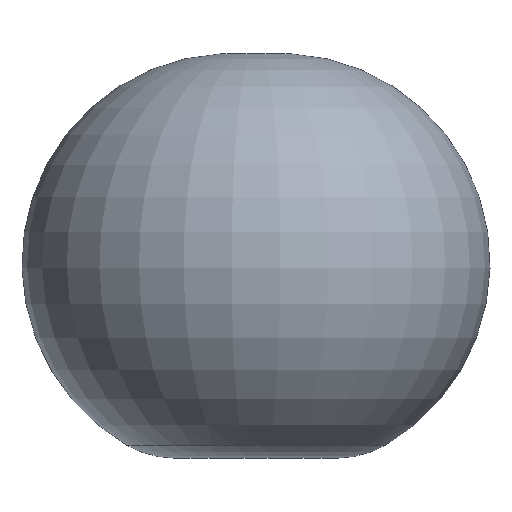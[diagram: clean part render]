
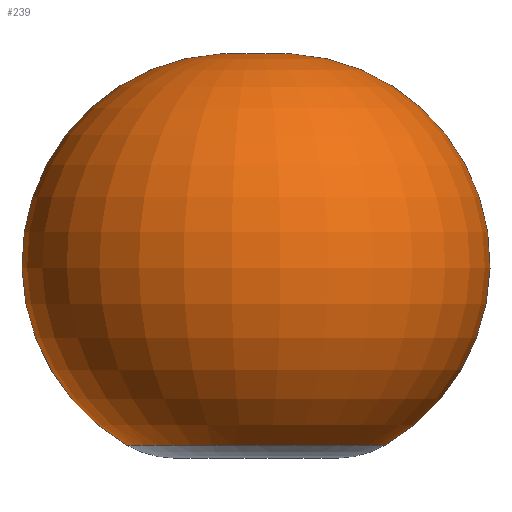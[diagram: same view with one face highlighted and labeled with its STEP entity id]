
A CAD part, front view. The second image highlights one B-rep face of the part: STEP entity #239.
In plain terms, the highlighted toroidal (fillet/blend) face has major radius 150 mm and minor radius 1300 mm.
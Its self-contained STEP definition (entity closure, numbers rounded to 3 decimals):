
#7 = EDGE_CURVE ( 'NONE', #83, #44, #34, .T. ) ;
#12 = EDGE_CURVE ( 'NONE', #211, #83, #84, .T. ) ;
#18 = DIRECTION ( 'NONE',  ( 1., 0., 0. ) ) ;
#21 = ORIENTED_EDGE ( 'NONE', *, *, #277, .F. ) ;
#25 = TOROIDAL_SURFACE ( 'NONE', #317, 150., 1300. ) ;
#29 = DIRECTION ( 'NONE',  ( 0., 0., -1. ) ) ;
#34 = CIRCLE ( 'NONE', #310, 1300. ) ;
#42 = DIRECTION ( 'NONE',  ( -1., 0., 0. ) ) ;
#44 = VERTEX_POINT ( 'NONE', #298 ) ;
#54 = CIRCLE ( 'NONE', #66, 1300. ) ;
#62 = AXIS2_PLACEMENT_3D ( 'NONE', #69, #299, #274 ) ;
#66 = AXIS2_PLACEMENT_3D ( 'NONE', #183, #313, #42 ) ;
#69 = CARTESIAN_POINT ( 'NONE',  ( 0., 0., -639.333 ) ) ;
#70 = ORIENTED_EDGE ( 'NONE', *, *, #7, .T. ) ;
#72 = CARTESIAN_POINT ( 'NONE',  ( 800., 0., -639.333 ) ) ;
#76 = CARTESIAN_POINT ( 'NONE',  ( -800., 0., -639.333 ) ) ;
#83 = VERTEX_POINT ( 'NONE', #72 ) ;
#84 = CIRCLE ( 'NONE', #62, 800. ) ;
#151 = FACE_OUTER_BOUND ( 'NONE', #297, .T. ) ;
#165 = DIRECTION ( 'NONE',  ( 0., -1., 0. ) ) ;
#167 = CARTESIAN_POINT ( 'NONE',  ( 150., 0., 486.5 ) ) ;
#183 = CARTESIAN_POINT ( 'NONE',  ( -150., 0., 486.5 ) ) ;
#211 = VERTEX_POINT ( 'NONE', #76 ) ;
#222 = ORIENTED_EDGE ( 'NONE', *, *, #12, .T. ) ;
#239 = ADVANCED_FACE ( 'NONE', ( #151 ), #25, .T. ) ;
#240 = CARTESIAN_POINT ( 'NONE',  ( 0., 0., 486.5 ) ) ;
#274 = DIRECTION ( 'NONE',  ( 1., 0., 0. ) ) ;
#277 = EDGE_CURVE ( 'NONE', #211, #44, #54, .T. ) ;
#290 = DIRECTION ( 'NONE',  ( 0., 0., 1. ) ) ;
#297 = EDGE_LOOP ( 'NONE', ( #21, #222, #70 ) ) ;
#298 = CARTESIAN_POINT ( 'NONE',  ( 0., 0., 1777.817 ) ) ;
#299 = DIRECTION ( 'NONE',  ( 0., 0., 1. ) ) ;
#310 = AXIS2_PLACEMENT_3D ( 'NONE', #167, #165, #29 ) ;
#313 = DIRECTION ( 'NONE',  ( 0., 1., 0. ) ) ;
#317 = AXIS2_PLACEMENT_3D ( 'NONE', #240, #290, #18 ) ;
